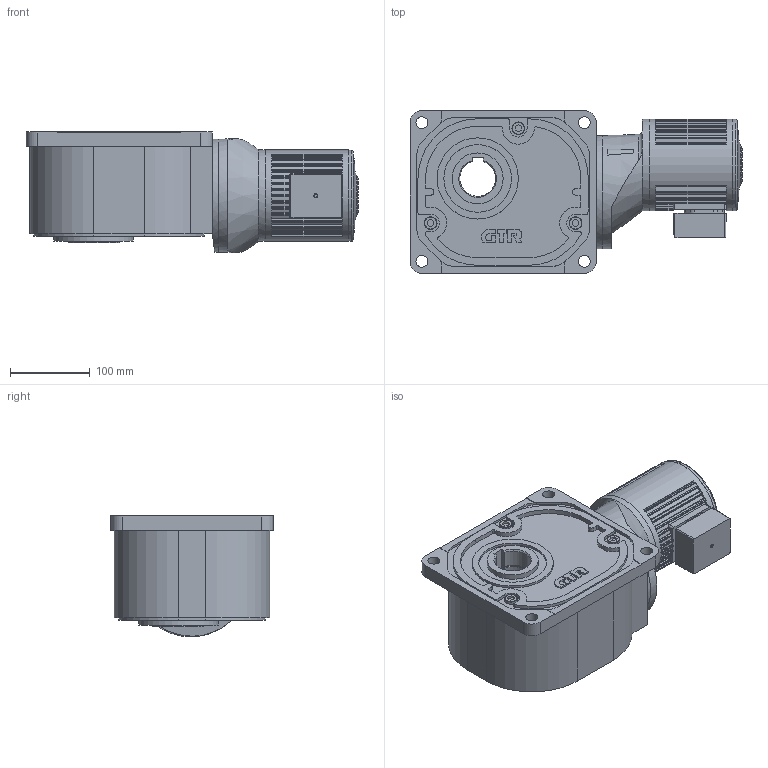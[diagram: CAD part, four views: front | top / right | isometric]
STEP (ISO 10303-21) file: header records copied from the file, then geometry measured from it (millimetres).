
FILE_DESCRIPTION( ( 'STEP AP203' ), ' ' );
FILE_NAME( 'p:/temp/worker_4/2968_180/app_66_12017041201293121602309260eae72_000000_00_00_000000/format_1/FS45N600L-IPM020NJNNone.stp', '2017-04-11T23:29:32', ( '' ), ( '' ), ' ', 'PARTsolutions', ' ' );
FILE_SCHEMA( ( 'CONFIG_CONTROL_DESIGN' ) );
Length unit declared in the file: millimetre
Products named in the file (6): FS45N600L-IPM020NJNNone; _FS45; _GH020; HI_T010; _010M; _J-BOX020
Assembly tree (5 placements, depth 2):
  FS45N600L-IPM020NJNNone
    _FS45
    _GH020
    HI_T010
    _010M
    _J-BOX020
Bounding box: 417 x 204 x 152.72 mm (x, y, z)
Volume: 7017249.1 mm3; surface area: 402635.3 mm2
Topology: 5 solids, 5 shells, 564 faces, 1493 edges, 989 vertices
Faces by surface type: plane 287, cylinder 258, cone 10, torus 8, bspline 1
Full cylindrical faces by diameter (mm): 5 x1, 8.4 x4, 12 x1, 15 x4, 16 x3, 64 x2, 85 x2, 100 x1, 102 x2, 114.5 x1, 115 x2, 142 x1
Entity records: 17809 total; most frequent: CARTESIAN_POINT 3195, DIRECTION 3183, ORIENTED_EDGE 2904, EDGE_CURVE 1452, AXIS2_PLACEMENT_3D 1180, VERTEX_POINT 982, LINE 823, VECTOR 823
